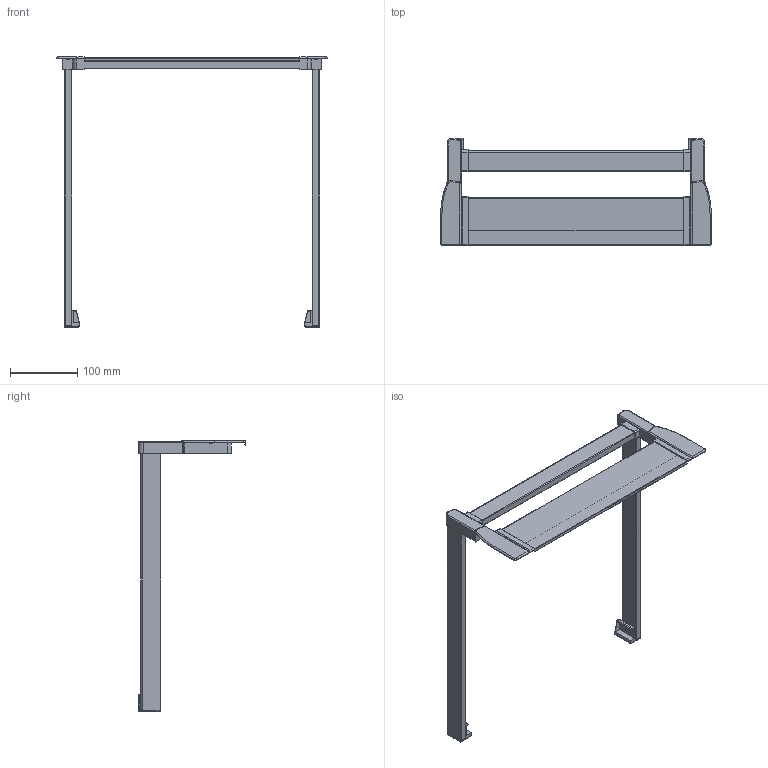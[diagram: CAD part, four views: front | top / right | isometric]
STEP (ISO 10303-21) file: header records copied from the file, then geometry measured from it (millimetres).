
FILE_DESCRIPTION (( 'STEP AP214' ), '1' );
FILE_NAME ('1_P620_NL 400_KAB 450_19er KS_.step', '2009-09-16T06:29:30', ( 'Waldinger Reinhard' ), ( 'Grass GmbH' ), 'SwSTEP 2.0', 'SolidWorks 2009', '' );
FILE_SCHEMA (( 'AUTOMOTIVE_DESIGN' ));
Length unit declared in the file: millimetre
Products named in the file (1): 1_P620_NL 400_KAB 450_19er KS_
Bounding box: 403.6 x 160.5 x 402.8 mm (x, y, z)
Volume: 741895.7 mm3; surface area: 178631.7 mm2
Topology: 1 solids, 1 shells, 220 faces, 578 edges, 364 vertices
Faces by surface type: plane 97, cylinder 91, torus 28, sphere 2, bspline 2
Entity records: 7004 total; most frequent: CARTESIAN_POINT 1345, DIRECTION 1198, ORIENTED_EDGE 1152, EDGE_CURVE 576, AXIS2_PLACEMENT_3D 433, VERTEX_POINT 364, VECTOR 332, LINE 332
